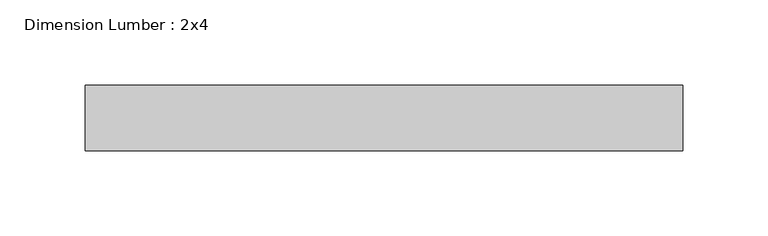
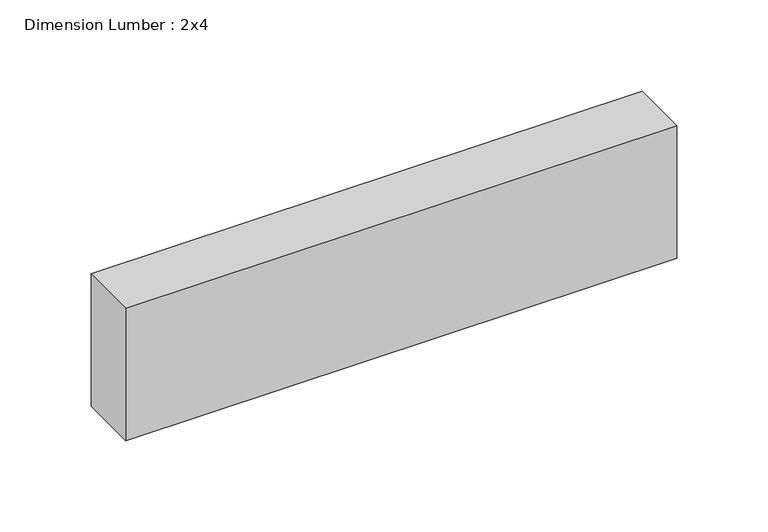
"""IFC4 building model written with IfcOpenShell, lengths in millimetres: beam geometry, Dimension Lumber : 2x4."""

from ifc_helpers import new_model, si_unit, frame, origin, place, context, project, spatial, polyline, outline, extrude, source, transform, mapped, element, save


def dimension_lumber_2x4_7a16ef8e(model_context):
    return source(origin(), model_context, "Body", "SweptSolid", [
        extrude(outline(polyline([(174.7570801, 19.05), (174.7570801, -19.05), (-174.7570801, -19.05), (-174.7570801, 19.05), (174.7570801, 19.05)])), frame((0.0, 0.0, -44.45), z_axis=(0.0, 0.0, 1.0), x_axis=(1.0, 0.0, 0.0)), (0.0, 0.0, 1.0), 88.9),
    ])


if __name__ == "__main__":
    model = new_model("IFC4")
    model_context = context("Model", 3, world=origin())
    ifc_project = project(units=[si_unit("LENGTHUNIT", "METRE", prefix="MILLI")], contexts=[model_context])
    site = spatial("IfcSite", under=ifc_project)
    building = spatial("IfcBuilding", under=site)
    placement = place(None, origin())
    dimension_lumber_2x4_shape = dimension_lumber_2x4_7a16ef8e(model_context)
    element("IfcBeam", 1, ObjectType="Dimension Lumber : 2x4", at=placement, inside=building, context=model_context, shape_type="MappedRepresentation", body=[
        mapped(dimension_lumber_2x4_shape, transform((0.0, 0.0, 0.0), x_axis=(1.0, 0.0, 0.0), y_axis=(0.0, 1.0, 0.0), z_axis=(0.0, 0.0, 1.0))),
    ])
    save(model, "model.ifc")
